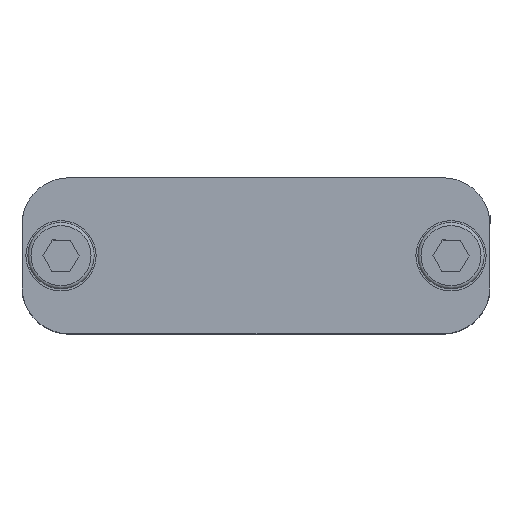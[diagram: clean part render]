
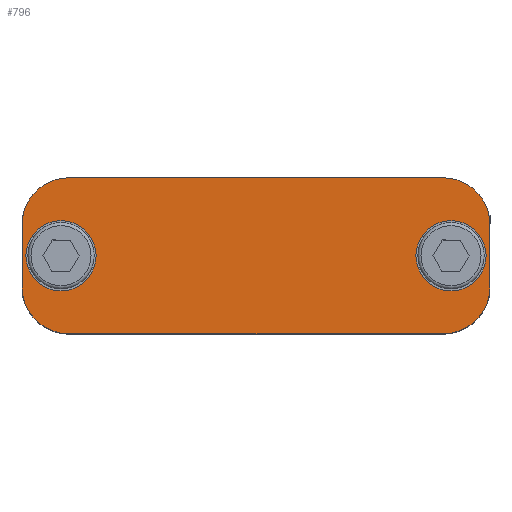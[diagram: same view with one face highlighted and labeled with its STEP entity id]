
A CAD part, top view. The second image highlights one B-rep face of the part: STEP entity #796.
In plain terms, the highlighted planar face has unit normal (0, 0, 1).
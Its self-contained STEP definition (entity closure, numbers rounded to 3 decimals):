
#308=CARTESIAN_POINT('',(30.,-4.,34.0));
#309=VERTEX_POINT('',#308);
#310=CARTESIAN_POINT('',(24.,-10.,34.0));
#311=VERTEX_POINT('',#310);
#312=CARTESIAN_POINT('',(24.,-4.,34.0));
#313=DIRECTION('',(0.0,0.0,-1.));
#314=DIRECTION('',(0.707,-0.707,0.0));
#315=AXIS2_PLACEMENT_3D('',#312,#313,#314);
#316=CIRCLE('',#315,6.);
#317=EDGE_CURVE('',#309,#311,#316,.T.);
#359=CARTESIAN_POINT('',(30.,4.,34.0));
#360=VERTEX_POINT('',#359);
#367=CARTESIAN_POINT('',(30.,4.0,34.0));
#368=DIRECTION('',(0.0,-1.0,0.0));
#369=VECTOR('',#368,8.);
#370=LINE('',#367,#369);
#371=EDGE_CURVE('',#360,#309,#370,.T.);
#462=CARTESIAN_POINT('',(24.,10.,34.0));
#463=VERTEX_POINT('',#462);
#464=CARTESIAN_POINT('',(24.,4.,34.0));
#465=DIRECTION('',(0.0,0.0,-1.0));
#466=DIRECTION('',(0.707,0.707,0.0));
#467=AXIS2_PLACEMENT_3D('',#464,#465,#466);
#468=CIRCLE('',#467,6.);
#469=EDGE_CURVE('',#463,#360,#468,.T.);
#588=CARTESIAN_POINT('',(-24.,-10.,34.0));
#589=VERTEX_POINT('',#588);
#590=CARTESIAN_POINT('',(-30.0,-4.,34.0));
#591=VERTEX_POINT('',#590);
#592=CARTESIAN_POINT('',(-24.,-4.,34.0));
#593=DIRECTION('',(0.0,0.0,-1.0));
#594=DIRECTION('',(-0.707,-0.707,0.0));
#595=AXIS2_PLACEMENT_3D('',#592,#593,#594);
#596=CIRCLE('',#595,6.);
#597=EDGE_CURVE('',#589,#591,#596,.T.);
#621=CARTESIAN_POINT('',(-30.0,4.,34.0));
#622=VERTEX_POINT('',#621);
#623=CARTESIAN_POINT('',(-30.0,-4.,34.0));
#624=DIRECTION('',(0.0,1.0,0.0));
#625=VECTOR('',#624,8.);
#626=LINE('',#623,#625);
#627=EDGE_CURVE('',#591,#622,#626,.T.);
#644=CARTESIAN_POINT('',(-24.,10.,34.0));
#645=VERTEX_POINT('',#644);
#646=CARTESIAN_POINT('',(-24.0,4.,34.0));
#647=DIRECTION('',(0.0,0.0,-1.0));
#648=DIRECTION('',(-0.707,0.707,0.0));
#649=AXIS2_PLACEMENT_3D('',#646,#647,#648);
#650=CIRCLE('',#649,6.);
#651=EDGE_CURVE('',#622,#645,#650,.T.);
#689=CARTESIAN_POINT('',(27.75,0.,34.0));
#690=VERTEX_POINT('',#689);
#691=CARTESIAN_POINT('',(25.0,0.0,34.0));
#692=DIRECTION('',(0.0,0.0,-1.0));
#693=DIRECTION('',(-1.0,0.0,0.0));
#694=AXIS2_PLACEMENT_3D('',#691,#692,#693);
#695=CIRCLE('',#694,2.75);
#696=EDGE_CURVE('',#690,#690,#695,.T.);
#706=CARTESIAN_POINT('',(-22.25,0.,34.0));
#707=VERTEX_POINT('',#706);
#708=CARTESIAN_POINT('',(-25.0,0.0,34.0));
#709=DIRECTION('',(0.0,0.0,-1.0));
#710=DIRECTION('',(-1.0,0.0,0.0));
#711=AXIS2_PLACEMENT_3D('',#708,#709,#710);
#712=CIRCLE('',#711,2.75);
#713=EDGE_CURVE('',#707,#707,#712,.T.);
#741=CARTESIAN_POINT('',(-24.,10.,34.0));
#742=DIRECTION('',(1.0,0.0,0.0));
#743=VECTOR('',#742,48.);
#744=LINE('',#741,#743);
#745=EDGE_CURVE('',#645,#463,#744,.T.);
#764=CARTESIAN_POINT('',(24.,-10.,34.0));
#765=DIRECTION('',(-1.0,0.0,0.0));
#766=VECTOR('',#765,48.0);
#767=LINE('',#764,#766);
#768=EDGE_CURVE('',#311,#589,#767,.T.);
#775=CARTESIAN_POINT('',(0.,0.,34.0));
#776=DIRECTION('',(0.0,0.0,1.0));
#777=DIRECTION('',(1.0,0.0,0.0));
#778=AXIS2_PLACEMENT_3D('',#775,#776,#777);
#779=PLANE('',#778);
#780=ORIENTED_EDGE('',*,*,#317,.F.);
#781=ORIENTED_EDGE('',*,*,#371,.F.);
#782=ORIENTED_EDGE('',*,*,#469,.F.);
#783=ORIENTED_EDGE('',*,*,#745,.F.);
#784=ORIENTED_EDGE('',*,*,#651,.F.);
#785=ORIENTED_EDGE('',*,*,#627,.F.);
#786=ORIENTED_EDGE('',*,*,#597,.F.);
#787=ORIENTED_EDGE('',*,*,#768,.F.);
#788=EDGE_LOOP('',(#780,#781,#782,#783,#784,#785,#786,#787));
#789=FACE_OUTER_BOUND('',#788,.T.);
#790=ORIENTED_EDGE('',*,*,#696,.T.);
#791=EDGE_LOOP('',(#790));
#792=FACE_BOUND('',#791,.T.);
#793=ORIENTED_EDGE('',*,*,#713,.T.);
#794=EDGE_LOOP('',(#793));
#795=FACE_BOUND('',#794,.T.);
#796=ADVANCED_FACE('',(#789,#792,#795),#779,.T.);
